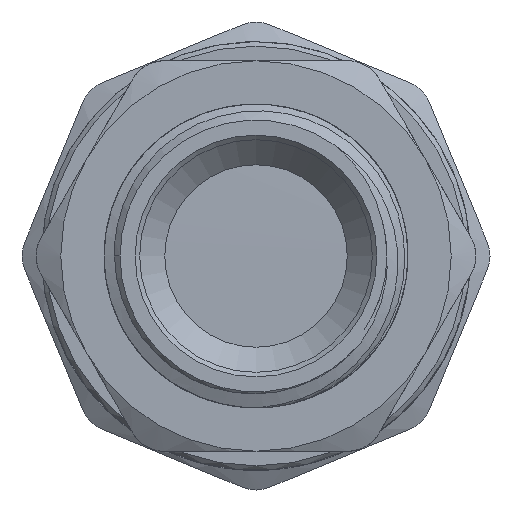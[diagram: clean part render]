
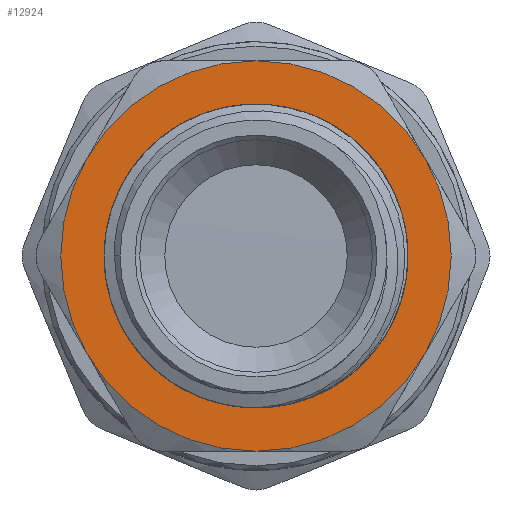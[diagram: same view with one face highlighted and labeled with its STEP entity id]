
A CAD part, left-side view. The second image highlights one B-rep face of the part: STEP entity #12924.
In plain terms, the highlighted planar face has unit normal (-1, 0, 0).
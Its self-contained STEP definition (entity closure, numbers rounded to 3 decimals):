
#240=PLANE('',#13397);
#699=FACE_BOUND('',#2391,.T.);
#717=CIRCLE('',#13020,16.65);
#718=CIRCLE('',#13021,16.65);
#815=CIRCLE('',#13355,21.4);
#816=CIRCLE('',#13357,21.4);
#817=CIRCLE('',#13359,21.4);
#818=CIRCLE('',#13361,21.4);
#819=CIRCLE('',#13363,21.4);
#837=CIRCLE('',#13396,21.4);
#1647=FACE_OUTER_BOUND('',#2390,.T.);
#2390=EDGE_LOOP('',(#11759,#11760,#11761,#11762,#11763,#11764));
#2391=EDGE_LOOP('',(#11765,#11766));
#4960=VERTEX_POINT('',#15996);
#4961=VERTEX_POINT('',#15998);
#6030=VERTEX_POINT('',#31095);
#6038=VERTEX_POINT('',#31143);
#6052=VERTEX_POINT('',#31224);
#6055=VERTEX_POINT('',#31243);
#6063=VERTEX_POINT('',#31291);
#6070=VERTEX_POINT('',#31338);
#6299=EDGE_CURVE('',#4960,#4961,#717,.T.);
#6300=EDGE_CURVE('',#4961,#4960,#718,.T.);
#7983=EDGE_CURVE('',#6055,#6052,#815,.T.);
#7984=EDGE_CURVE('',#6052,#6038,#816,.T.);
#7985=EDGE_CURVE('',#6063,#6055,#817,.T.);
#7986=EDGE_CURVE('',#6038,#6030,#818,.T.);
#7987=EDGE_CURVE('',#6070,#6063,#819,.T.);
#8013=EDGE_CURVE('',#6030,#6070,#837,.T.);
#11759=ORIENTED_EDGE('',*,*,#7985,.T.);
#11760=ORIENTED_EDGE('',*,*,#7983,.T.);
#11761=ORIENTED_EDGE('',*,*,#7984,.T.);
#11762=ORIENTED_EDGE('',*,*,#7986,.T.);
#11763=ORIENTED_EDGE('',*,*,#8013,.T.);
#11764=ORIENTED_EDGE('',*,*,#7987,.T.);
#11765=ORIENTED_EDGE('',*,*,#6300,.F.);
#11766=ORIENTED_EDGE('',*,*,#6299,.F.);
#12924=ADVANCED_FACE('',(#1647,#699),#240,.T.);
#13020=AXIS2_PLACEMENT_3D('',#15999,#13666,#13667);
#13021=AXIS2_PLACEMENT_3D('',#16000,#13668,#13669);
#13355=AXIS2_PLACEMENT_3D('',#31356,#15079,#15080);
#13357=AXIS2_PLACEMENT_3D('',#31358,#15083,#15084);
#13359=AXIS2_PLACEMENT_3D('',#31360,#15087,#15088);
#13361=AXIS2_PLACEMENT_3D('',#31362,#15091,#15092);
#13363=AXIS2_PLACEMENT_3D('',#31364,#15095,#15096);
#13396=AXIS2_PLACEMENT_3D('',#31420,#15169,#15170);
#13397=AXIS2_PLACEMENT_3D('',#31421,#15171,#15172);
#13666=DIRECTION('center_axis',(-1.,0.,0.));
#13667=DIRECTION('ref_axis',(0.,0.,1.));
#13668=DIRECTION('center_axis',(-1.,0.,0.));
#13669=DIRECTION('ref_axis',(0.,0.,1.));
#15079=DIRECTION('center_axis',(-1.,0.,0.));
#15080=DIRECTION('ref_axis',(0.,0.,1.));
#15083=DIRECTION('center_axis',(-1.,0.,0.));
#15084=DIRECTION('ref_axis',(0.,0.,1.));
#15087=DIRECTION('center_axis',(-1.,0.,0.));
#15088=DIRECTION('ref_axis',(0.,0.,1.));
#15091=DIRECTION('center_axis',(-1.,0.,0.));
#15092=DIRECTION('ref_axis',(0.,0.,1.));
#15095=DIRECTION('center_axis',(-1.,0.,0.));
#15096=DIRECTION('ref_axis',(0.,0.,1.));
#15169=DIRECTION('center_axis',(-1.,0.,0.));
#15170=DIRECTION('ref_axis',(0.,0.,1.));
#15171=DIRECTION('center_axis',(-1.,0.,0.));
#15172=DIRECTION('ref_axis',(0.,0.,1.));
#15996=CARTESIAN_POINT('',(-11.,16.65,0.));
#15998=CARTESIAN_POINT('',(-11.,-16.65,0.));
#15999=CARTESIAN_POINT('Origin',(-11.,0.,0.));
#16000=CARTESIAN_POINT('Origin',(-11.,0.,0.));
#31095=CARTESIAN_POINT('',(-11.,18.533,-10.7));
#31143=CARTESIAN_POINT('',(-11.,18.533,10.7));
#31224=CARTESIAN_POINT('',(-11.,0.,21.4));
#31243=CARTESIAN_POINT('',(-11.,-18.533,10.7));
#31291=CARTESIAN_POINT('',(-11.,-18.533,-10.7));
#31338=CARTESIAN_POINT('',(-11.,0.,-21.4));
#31356=CARTESIAN_POINT('Origin',(-11.,0.,0.));
#31358=CARTESIAN_POINT('Origin',(-11.,0.,0.));
#31360=CARTESIAN_POINT('Origin',(-11.,0.,0.));
#31362=CARTESIAN_POINT('Origin',(-11.,0.,0.));
#31364=CARTESIAN_POINT('Origin',(-11.,0.,0.));
#31420=CARTESIAN_POINT('Origin',(-11.,0.,0.));
#31421=CARTESIAN_POINT('Origin',(-11.,-16.65,0.));
